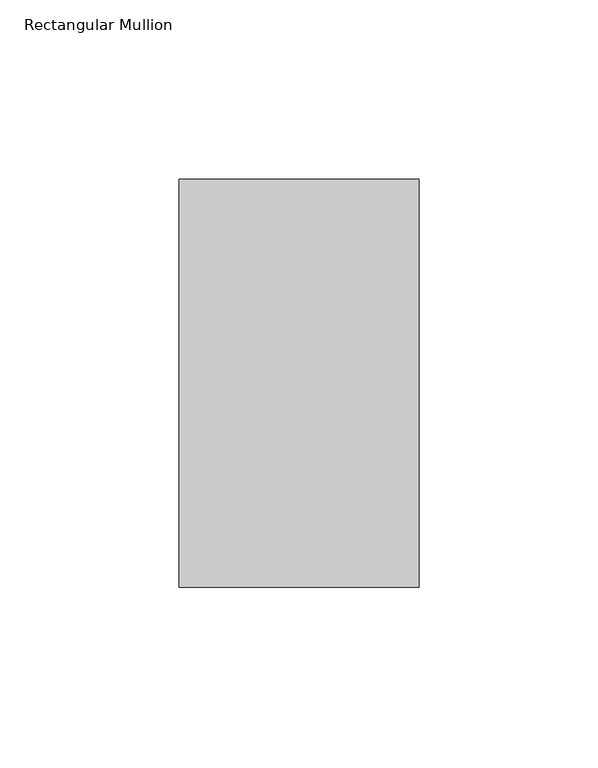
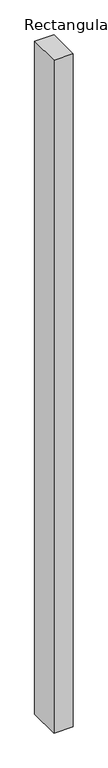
"""IFC4 building model written with IfcOpenShell, lengths in millimetres: member geometry, Rectangular Mullion : 30_rechthoek."""

from ifc_helpers import new_model, si_unit, frame, origin, place, context, project, spatial, polyline, outline, extrude, source, transform, mapped, element, save


def rectangular_mullion_723cc66a(model_context):
    return source(origin(), model_context, "Body", "SweptSolid", [
        extrude(outline(polyline([(33.5, 57.0), (33.5, -57.0), (-33.5, -57.0), (-33.5, 57.0), (33.5, 57.0)])), frame((0.0, 0.0, -2449.6666667), z_axis=(0.0, 0.0, 1.0), x_axis=(1.0, 0.0, 0.0)), (0.0, 0.0, 1.0), 2449.6666667),
    ])


if __name__ == "__main__":
    model = new_model("IFC4")
    model_context = context("Model", 3, world=origin())
    ifc_project = project(units=[si_unit("LENGTHUNIT", "METRE", prefix="MILLI")], contexts=[model_context])
    site = spatial("IfcSite", under=ifc_project)
    building = spatial("IfcBuilding", under=site)
    placement = place(None, origin())
    rectangular_mullion_shape = rectangular_mullion_723cc66a(model_context)
    element("IfcMember", 1, ObjectType="Rectangular Mullion : 30_rechthoek", at=placement, inside=building, context=model_context, shape_type="MappedRepresentation", body=[
        mapped(rectangular_mullion_shape, transform((0.0, 0.0, 0.0), x_axis=(1.0, 0.0, 0.0), y_axis=(0.0, 1.0, 0.0), z_axis=(0.0, 0.0, 1.0))),
    ])
    save(model, "model.ifc")
